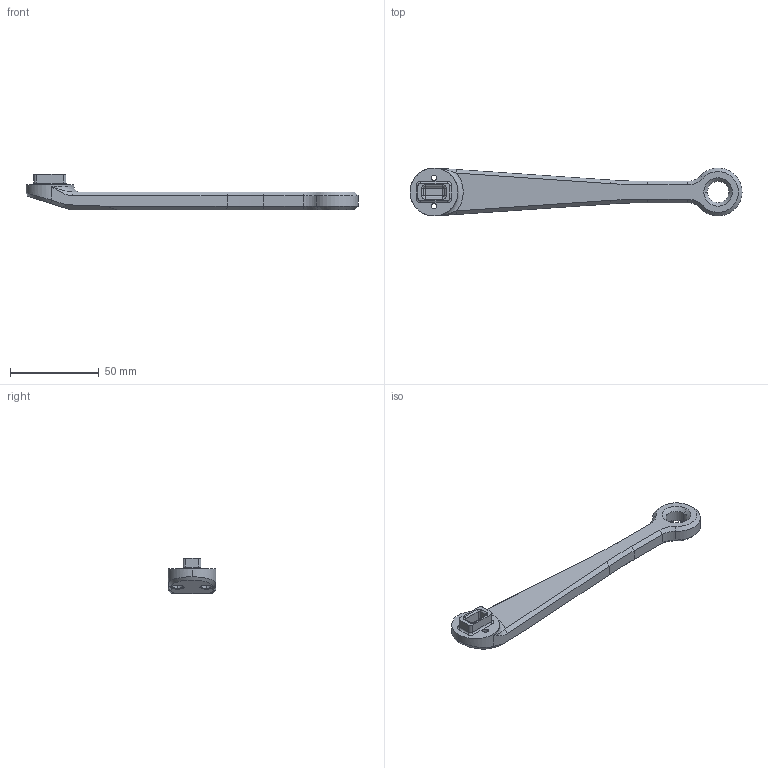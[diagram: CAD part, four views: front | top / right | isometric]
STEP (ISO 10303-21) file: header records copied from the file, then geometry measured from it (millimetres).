
FILE_DESCRIPTION (( 'STEP AP214' ), '1' );
FILE_NAME ('lower_leg_solid.STEP', '2020-10-14T11:51:13', ( '' ), ( '' ), 'SwSTEP 2.0', 'SolidWorks 2017', '' );
FILE_SCHEMA (( 'AUTOMOTIVE_DESIGN' ));
Length unit declared in the file: millimetre
Products named in the file (1): lower_leg_solid
Bounding box: 187 x 27 x 20 mm (x, y, z)
Volume: 31979.1 mm3; surface area: 11100.5 mm2
Topology: 1 solids, 1 shells, 105 faces, 244 edges, 139 vertices
Faces by surface type: cylinder 38, plane 32, cone 15, torus 9, bspline 7, sphere 4
Entity records: 3858 total; most frequent: CARTESIAN_POINT 1466, DIRECTION 517, ORIENTED_EDGE 476, EDGE_CURVE 238, AXIS2_PLACEMENT_3D 199, VERTEX_POINT 139, LINE 119, VECTOR 119
